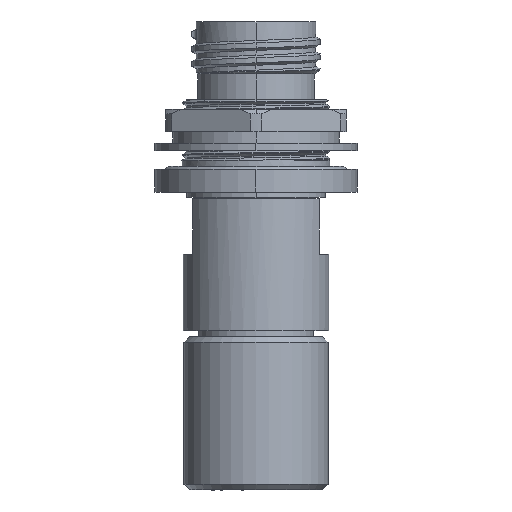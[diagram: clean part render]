
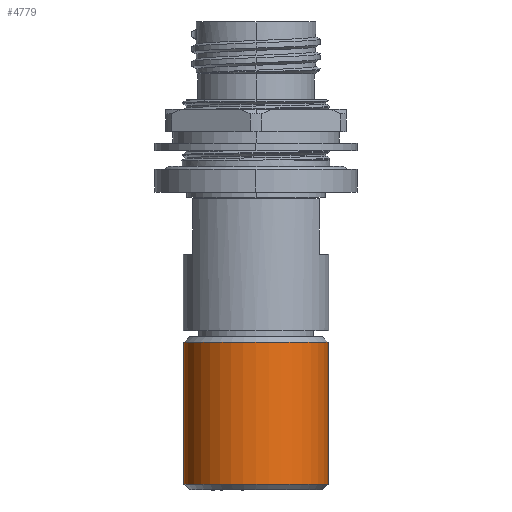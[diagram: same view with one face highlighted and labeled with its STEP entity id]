
A CAD part, left-side view. The second image highlights one B-rep face of the part: STEP entity #4779.
In plain terms, the highlighted cylindrical face has radius 12.383 mm (diameter 24.765 mm), a partial arc.
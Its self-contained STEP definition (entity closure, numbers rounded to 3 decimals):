
#160 = DIRECTION ( 'NONE',  ( 0., 0., 1. ) ) ;
#532 = LINE ( 'NONE', #20946, #6808 ) ;
#1384 = CARTESIAN_POINT ( 'NONE',  ( 0., -12.382, -79.299 ) ) ;
#1868 = AXIS2_PLACEMENT_3D ( 'NONE', #18620, #160, #4103 ) ;
#3143 = DIRECTION ( 'NONE',  ( 0., -1., 0. ) ) ;
#4103 = DIRECTION ( 'NONE',  ( 0., 1., 0. ) ) ;
#4539 = DIRECTION ( 'NONE',  ( 0., 1., 0. ) ) ;
#4779 = ADVANCED_FACE ( 'NONE', ( #12039 ), #6260, .T. ) ;
#4991 = DIRECTION ( 'NONE',  ( 0., 0., -1. ) ) ;
#5926 = VECTOR ( 'NONE', #17535, 1000. ) ;
#6260 = CYLINDRICAL_SURFACE ( 'NONE', #11258, 12.382 ) ;
#6808 = VECTOR ( 'NONE', #7667, 1000. ) ;
#7213 = EDGE_CURVE ( 'NONE', #21887, #15503, #9678, .T. ) ;
#7485 = EDGE_LOOP ( 'NONE', ( #14346, #12356, #10063, #21514 ) ) ;
#7667 = DIRECTION ( 'NONE',  ( 0., 0., 1. ) ) ;
#8076 = CARTESIAN_POINT ( 'NONE',  ( 0., -12.382, -80.315 ) ) ;
#8392 = EDGE_CURVE ( 'NONE', #15503, #16599, #15448, .T. ) ;
#8553 = CIRCLE ( 'NONE', #1868, 12.382 ) ;
#9678 = LINE ( 'NONE', #8076, #5926 ) ;
#10063 = ORIENTED_EDGE ( 'NONE', *, *, #7213, .T. ) ;
#11258 = AXIS2_PLACEMENT_3D ( 'NONE', #13767, #12159, #4539 ) ;
#11676 = EDGE_CURVE ( 'NONE', #19394, #21887, #8553, .T. ) ;
#12039 = FACE_OUTER_BOUND ( 'NONE', #7485, .T. ) ;
#12159 = DIRECTION ( 'NONE',  ( 0., 0., 1. ) ) ;
#12356 = ORIENTED_EDGE ( 'NONE', *, *, #11676, .T. ) ;
#13767 = CARTESIAN_POINT ( 'NONE',  ( 0., 0., -80.315 ) ) ;
#14346 = ORIENTED_EDGE ( 'NONE', *, *, #16325, .F. ) ;
#15448 = CIRCLE ( 'NONE', #17411, 12.382 ) ;
#15503 = VERTEX_POINT ( 'NONE', #16319 ) ;
#16319 = CARTESIAN_POINT ( 'NONE',  ( 0., -12.382, -54.991 ) ) ;
#16325 = EDGE_CURVE ( 'NONE', #19394, #16599, #532, .T. ) ;
#16599 = VERTEX_POINT ( 'NONE', #23152 ) ;
#17411 = AXIS2_PLACEMENT_3D ( 'NONE', #19497, #4991, #3143 ) ;
#17535 = DIRECTION ( 'NONE',  ( 0., 0., 1. ) ) ;
#18620 = CARTESIAN_POINT ( 'NONE',  ( 0., 0., -79.299 ) ) ;
#19394 = VERTEX_POINT ( 'NONE', #22250 ) ;
#19497 = CARTESIAN_POINT ( 'NONE',  ( 0., 0., -54.991 ) ) ;
#20946 = CARTESIAN_POINT ( 'NONE',  ( 0., 12.382, -80.315 ) ) ;
#21514 = ORIENTED_EDGE ( 'NONE', *, *, #8392, .T. ) ;
#21887 = VERTEX_POINT ( 'NONE', #1384 ) ;
#22250 = CARTESIAN_POINT ( 'NONE',  ( 0., 12.382, -79.299 ) ) ;
#23152 = CARTESIAN_POINT ( 'NONE',  ( 0., 12.382, -54.991 ) ) ;
